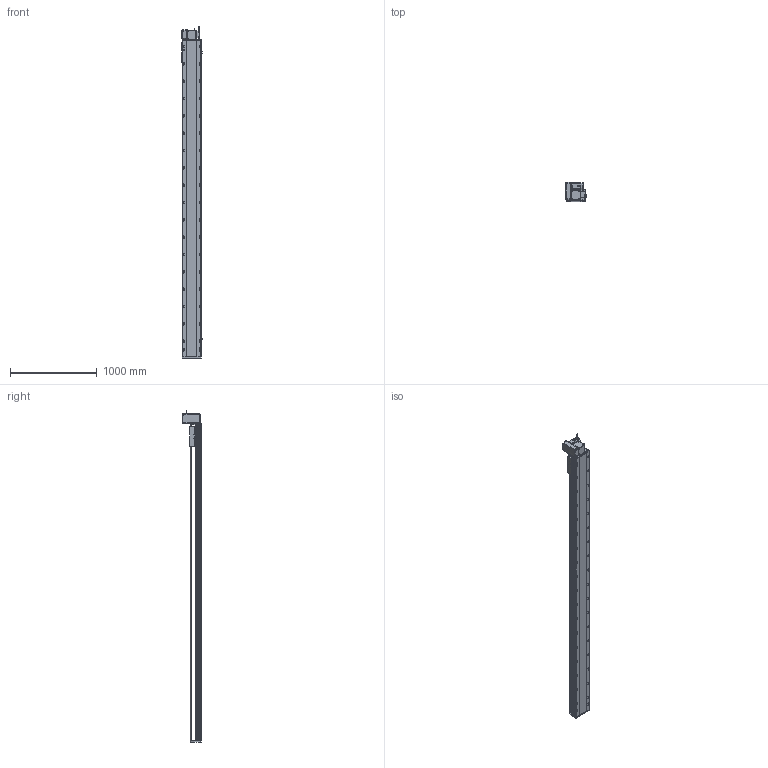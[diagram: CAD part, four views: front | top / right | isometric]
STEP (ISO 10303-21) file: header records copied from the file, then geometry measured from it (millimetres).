
FILE_DESCRIPTION (( 'STEP AP214' ), '1' );
FILE_NAME ('RTB22S-XX-3300-LW-M75-C4.STEP', '2025-12-12T07:07:19', ( '' ), ( '' ), 'SwSTEP 2.0', 'SolidWorks 2018', '' );
FILE_SCHEMA (( 'AUTOMOTIVE_DESIGN' ));
Length unit declared in the file: millimetre
Products named in the file (14): RTB22S-L-004賑釱^RTB22S-XX-XX-LW-M75-C4; RTB22S-GY-018P^RTB22S-LW-々湍釱蚾饜_RTB22S-XX-XX-LW-M75-C4; RTB22S-GY-014--々湍釱^RTB22S-LW-々湍釱蚾饜_RTB22S-XX-XX-LW-M75-C4; RTB22S-GY-017P^RTB22S-LW-々湍釱蚾饜_RTB22S-XX-XX-LW-M75-C4; RTH22-GY-013外置感应片^RTB22S-XX-XX-LW-M75-C4; RTB22S-GY-001耜裔^RTB22S-XX-XX-LW-M75-C4; RTB22S-GY-008-M75--萇儂啣^RTB22S-LW-々湍釱蚾饜_RTB22S-XX-XX-LW-M75-C4; OMRON EE-SX672 传感器^RTB22S-XX-XX-LW-M75-C4; 750W萇儂^RTB22S-XX-XX-LW-M75-C4; RTB22S-GY-007奻裔^RTB22S-XX-XX-LW-M75-C4; RTB22S-LW-々湍釱蚾饜^RTB22S-XX-XX-LW-M75-C4; RTB22S-GY-005P^RTB22S-LW-々湍釱蚾饜_RTB22S-XX-XX-LW-M75-C4; RTB22S-XX-3300-LW-M75-C4; RTB22S-L-011菁釱^RTB22S-XX-XX-LW-M75-C4
Assembly tree (16 placements, depth 3):
  RTB22S-XX-3300-LW-M75-C4
    RTB22S-L-011菁釱^RTB22S-XX-XX-LW-M75-C4
    RTB22S-GY-001耜裔^RTB22S-XX-XX-LW-M75-C4
    750W萇儂^RTB22S-XX-XX-LW-M75-C4
    RTB22S-GY-007奻裔^RTB22S-XX-XX-LW-M75-C4
    RTB22S-L-004賑釱^RTB22S-XX-XX-LW-M75-C4
    RTH22-GY-013外置感应片^RTB22S-XX-XX-LW-M75-C4
    OMRON EE-SX672 传感器^RTB22S-XX-XX-LW-M75-C4  x3
    RTB22S-LW-々湍釱蚾饜^RTB22S-XX-XX-LW-M75-C4
      RTB22S-GY-014--々湍釱^RTB22S-LW-々湍釱蚾饜_RTB22S-XX-XX-LW-M75-C4
      RTB22S-GY-017P^RTB22S-LW-々湍釱蚾饜_RTB22S-XX-XX-LW-M75-C4  x2
      RTB22S-GY-005P^RTB22S-LW-々湍釱蚾饜_RTB22S-XX-XX-LW-M75-C4
      RTB22S-GY-008-M75--萇儂啣^RTB22S-LW-々湍釱蚾饜_RTB22S-XX-XX-LW-M75-C4
      RTB22S-GY-018P^RTB22S-LW-々湍釱蚾饜_RTB22S-XX-XX-LW-M75-C4
Bounding box: 238.5 x 215.5 x 3832.2 mm (x, y, z)
Volume: 48082528.8 mm3; surface area: 4896324.8 mm2
Topology: 15 solids, 15 shells, 2181 faces, 5936 edges, 3782 vertices
Faces by surface type: plane 937, cylinder 754, bspline 296, cone 182, sphere 8, torus 4
Entity records: 60006 total; most frequent: CARTESIAN_POINT 16800, ORIENTED_EDGE 8572, DIRECTION 8440, EDGE_CURVE 4286, AXIS2_PLACEMENT_3D 3050, VERTEX_POINT 2786, VECTOR 2340, LINE 2340
